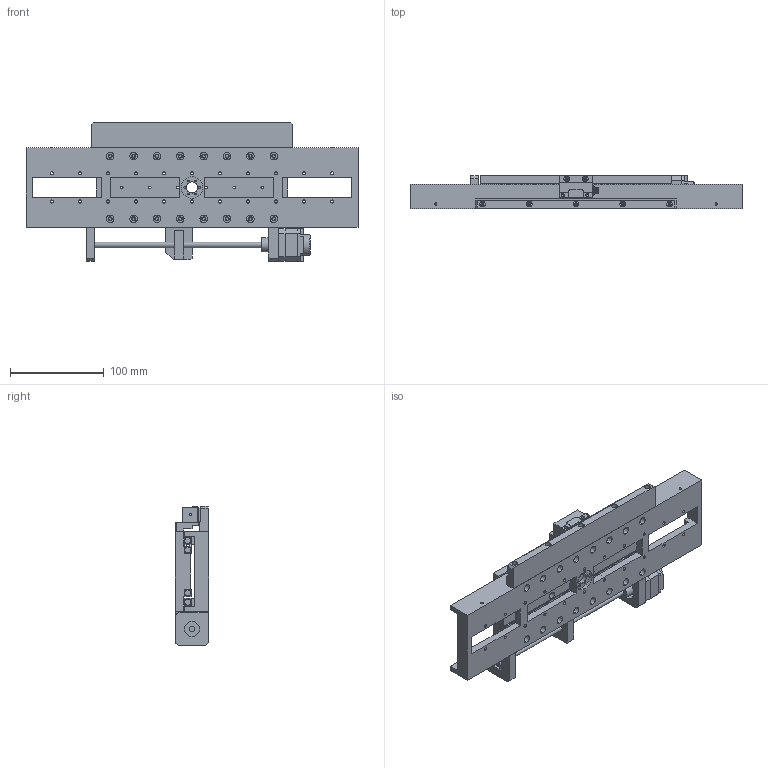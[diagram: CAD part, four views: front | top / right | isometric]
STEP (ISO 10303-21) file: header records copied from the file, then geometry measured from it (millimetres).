
FILE_DESCRIPTION (( 'STEP AP214' ), '1' );
FILE_NAME ('VSM17-X-150-E.STEP', '2022-12-15T14:28:10', ( '' ), ( '' ), 'SwSTEP 2.0', 'SolidWorks 2022', '' );
FILE_SCHEMA (( 'AUTOMOTIVE_DESIGN' ));
Length unit declared in the file: millimetre
Products named in the file (11): Simplified Encoder; Simplified Leadscrew Nut; Simplified VSM17-X-150 Base V2; Simplified VSM17-X-150 Carriage; Renishaw RELA30-150 Scale; Simplified VSM17-X Encoder Mount; Simplified Drivetrain_VSM17-X-150; Simplified Motor_H; Simplified Roller Bearing 150; VSM17-X-150 Encoder Scale mount; VSM17-X-150-E
Assembly tree (13 placements, depth 2):
  VSM17-X-150-E
    Simplified VSM17-X-150 Base V2
    Simplified Roller Bearing 150  x4
    Simplified VSM17-X-150 Carriage
    Simplified Motor_H
    Simplified Leadscrew Nut
    Simplified Drivetrain_VSM17-X-150
    VSM17-X-150 Encoder Scale mount
    Renishaw RELA30-150 Scale
    Simplified VSM17-X Encoder Mount
    Simplified Encoder
Bounding box: 355 x 36 x 148.7 mm (x, y, z)
Volume: 697711 mm3; surface area: 232735.3 mm2
Topology: 13 solids, 13 shells, 1129 faces, 2838 edges, 1803 vertices
Faces by surface type: cylinder 558, plane 393, cone 156, torus 22
Entity records: 27743 total; most frequent: DIRECTION 4728, CARTESIAN_POINT 4444, ORIENTED_EDGE 4164, EDGE_CURVE 2082, AXIS2_PLACEMENT_3D 1809, VERTEX_POINT 1359, EDGE_LOOP 1167, LINE 1110
